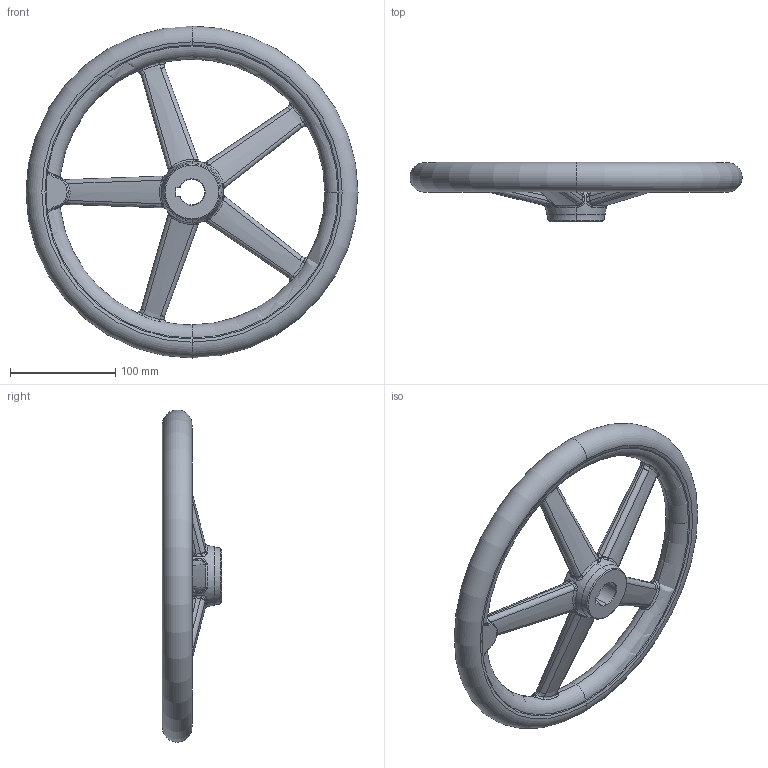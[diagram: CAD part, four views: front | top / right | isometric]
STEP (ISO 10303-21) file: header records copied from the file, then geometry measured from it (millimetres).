
FILE_DESCRIPTION (( 'STEP AP203' ), '1' );
FILE_NAME ('din950_a3_315x24.step', '2010-03-23T09:50:46', ( '_' ), ( '_' ), 'SwSTEP 2.0', 'SolidWorks 2010', '' );
FILE_SCHEMA (( 'CONFIG_CONTROL_DESIGN' ));
Length unit declared in the file: millimetre
Products named in the file (1): din950_a3_315x24
Bounding box: 314.89 x 56 x 314.89 mm (x, y, z)
Volume: 850751.8 mm3; surface area: 128061.4 mm2
Topology: 1 solids, 1 shells, 272 faces, 679 edges, 355 vertices
Faces by surface type: bspline 208, torus 20, cone 18, plane 17, cylinder 9
Entity records: 51576 total; most frequent: CARTESIAN_POINT 46589, ORIENTED_EDGE 1270, EDGE_CURVE 635, DIRECTION 602, B_SPLINE_CURVE_WITH_KNOTS 383, VERTEX_POINT 355, AXIS2_PLACEMENT_3D 285, EDGE_LOOP 274
